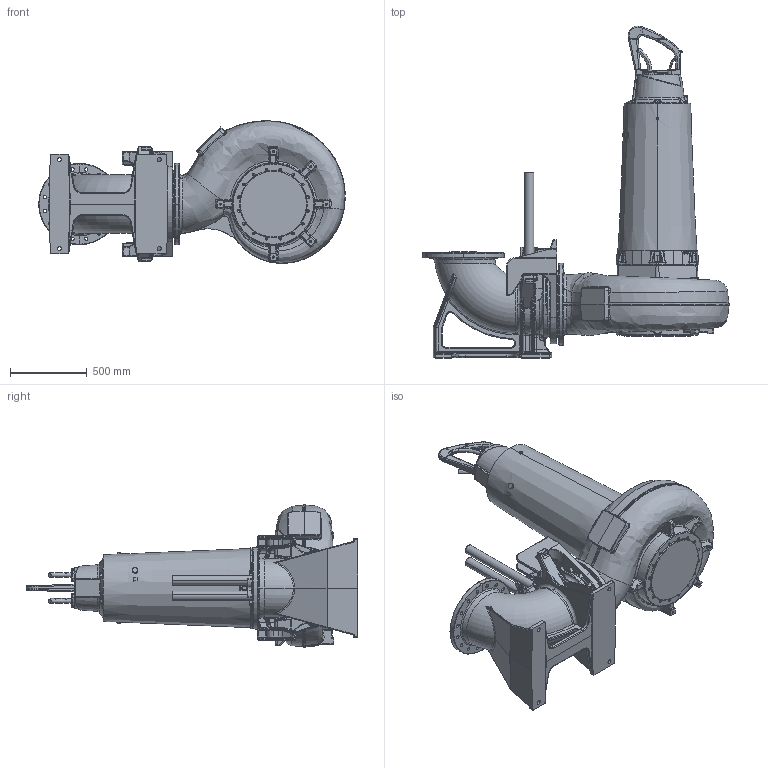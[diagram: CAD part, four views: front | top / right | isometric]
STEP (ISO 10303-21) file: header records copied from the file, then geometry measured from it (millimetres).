
FILE_DESCRIPTION (( 'STEP AP214' ), '1' );
FILE_NAME ('PE5_XFP351M-CH3_WET 2guide_B_NG2.STEP', '2017-03-14T07:48:59', ( '' ), ( '' ), 'SwSTEP 2.0', 'SolidWorks 2017', '' );
FILE_SCHEMA (( 'AUTOMOTIVE_DESIGN' ));
Length unit declared in the file: millimetre
Products named in the file (1): PE5_XFP351M-CH3_WET 2guide_B_NG2
Bounding box: 1998.47 x 2163.4 x 930.03 mm (x, y, z)
Volume: 612867890.9 mm3; surface area: 9943964.5 mm2
Topology: 4 solids, 4 shells, 3643 faces, 9142 edges, 5388 vertices
Faces by surface type: bspline 1145, cylinder 1114, plane 688, torus 323, cone 242, sphere 131
Entity records: 249316 total; most frequent: CARTESIAN_POINT 132591, ORIENTED_EDGE 17864, DIRECTION 13764, EDGE_CURVE 8932, AXIS2_PLACEMENT_3D 5494, VERTEX_POINT 5382, EDGE_LOOP 3848, UNCERTAINTY_MEASURE_WITH_UNIT 3649
